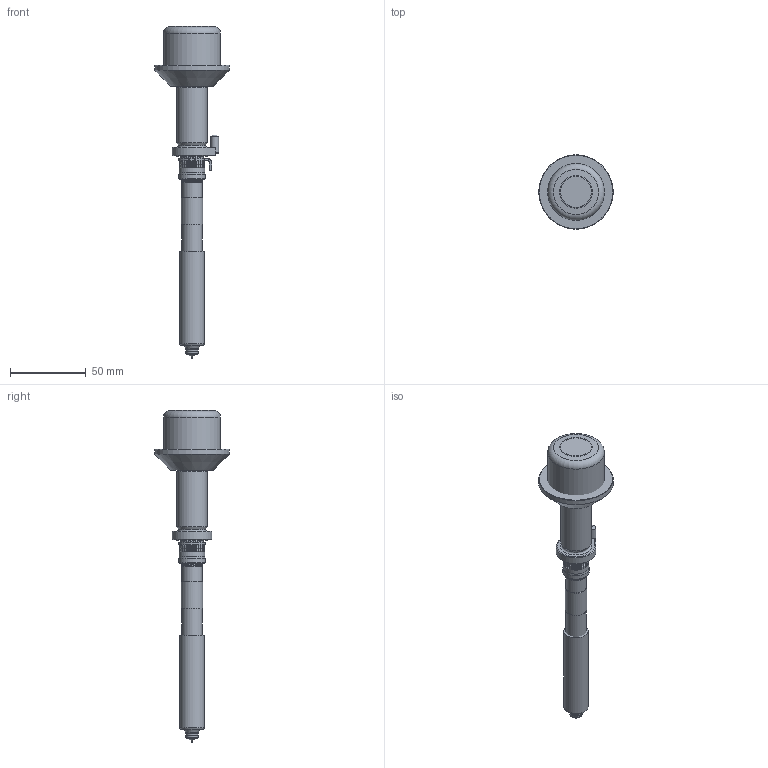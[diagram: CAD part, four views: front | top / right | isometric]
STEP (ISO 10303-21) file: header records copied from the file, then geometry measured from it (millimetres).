
FILE_DESCRIPTION(/* description */ (''),/* implementation_level */ '2;1');
FILE_NAME(/* name */ 'UH350 T2.stp',/* time_stamp */ '2021-12-24T15:23:04+08:00',/* author */ (''),/* organization */ (''),/* preprocessor_version */ 'ST-DEVELOPER v16',/* originating_system */ 'SIEMENS PLM Software NX 11.0',/* authorisation */ '');
FILE_SCHEMA (('AUTOMOTIVE_DESIGN { 1 0 10303 214 3 1 1 1 }'));
Length unit declared in the file: millimetre
Products named in the file (17): 3D_EXPORT_3D_ASSY_11314996_2_id89_x_t; 3D_EXPORT_3D_ASSY_11314996_2_id82_x_t; 3D_EXPORT_3D_ASSY_11314996_2_id77_x_t; 3D_EXPORT_3D_ASSY_11314996_2_id72_x_t; 3D_EXPORT_3D_ASSY_11314996_2_id67_x_t; 3D_EXPORT_3D_ASSY_11314996_2_id62_x_t; 3D_EXPORT_3D_ASSY_11314996_2_id57_x_t; 3D_EXPORT_3D_ASSY_11314996_2_id52_x_t; 3D_EXPORT_3D_ASSY_11314996_2_id47_x_t; 3D_EXPORT_3D_ASSY_11314996_2_id42_x_t; 3D_EXPORT_3D_ASSY_11314996_2_id31_x_t; 3D_EXPORT_3D_ASSY_11314996_2_id26_x_t; 3D_EXPORT_3D_ASSY_11314996_2_id21_x_t; 3D_EXPORT_3D_ASSY_11314996_2_id16_x_t; 3D_EXPORT_3D_ASSY_11314996_2_id11_x_t; 3D_EXPORT_3D_ASSY_11314996_2_id6_x_t; 3D_EXPORT_3D_ASSY_11314996_2_x_t
Assembly tree (21 placements, depth 2):
  3D_EXPORT_3D_ASSY_11314996_2_x_t
    3D_EXPORT_3D_ASSY_11314996_2_id6_x_t
    3D_EXPORT_3D_ASSY_11314996_2_id11_x_t
    3D_EXPORT_3D_ASSY_11314996_2_id16_x_t
    3D_EXPORT_3D_ASSY_11314996_2_id21_x_t
    3D_EXPORT_3D_ASSY_11314996_2_id26_x_t
    3D_EXPORT_3D_ASSY_11314996_2_id31_x_t  x4
    3D_EXPORT_3D_ASSY_11314996_2_id42_x_t
    3D_EXPORT_3D_ASSY_11314996_2_id47_x_t
    3D_EXPORT_3D_ASSY_11314996_2_id52_x_t
    3D_EXPORT_3D_ASSY_11314996_2_id57_x_t
    3D_EXPORT_3D_ASSY_11314996_2_id62_x_t
    3D_EXPORT_3D_ASSY_11314996_2_id67_x_t
    3D_EXPORT_3D_ASSY_11314996_2_id72_x_t
    3D_EXPORT_3D_ASSY_11314996_2_id77_x_t
    3D_EXPORT_3D_ASSY_11314996_2_id82_x_t  x2
    3D_EXPORT_3D_ASSY_11314996_2_id89_x_t  x2
Bounding box: 49 x 49 x 218.59 mm (x, y, z)
Volume: 111443.5 mm3; surface area: 36180.1 mm2
Topology: 21 solids, 21 shells, 421 faces, 1095 edges, 710 vertices
Faces by surface type: cylinder 209, plane 112, cone 55, torus 41, bspline 3, sphere 1
Full cylindrical faces by diameter (mm): 1 x3, 1.7 x2, 2.49 x1, 2.53 x1, 3.995 x1, 4 x1, 4.027 x3, 5 x1, 5.9 x1, 6.89 x1, 6.895 x1, 7.4 x1, 7.995 x1, 8 x2, 9 x1, 9.42 x1, 9.925 x1, 9.95 x1, 9.97 x4, 11.06 x2, 11.5 x1, 12.3 x1, 12.494 x1, 12.7 x1, 13.3 x2, 14 x2, 14.05 x1, 15 x1, 16 x1, 16.34 x1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
Entity records: 11353 total; most frequent: CARTESIAN_POINT 2240, DIRECTION 1355, ORIENTED_EDGE 1216, EDGE_CURVE 608, AXIS2_PLACEMENT_3D 576, EDGE_LOOP 485, VERTEX_POINT 450, ADVANCED_FACE 321
